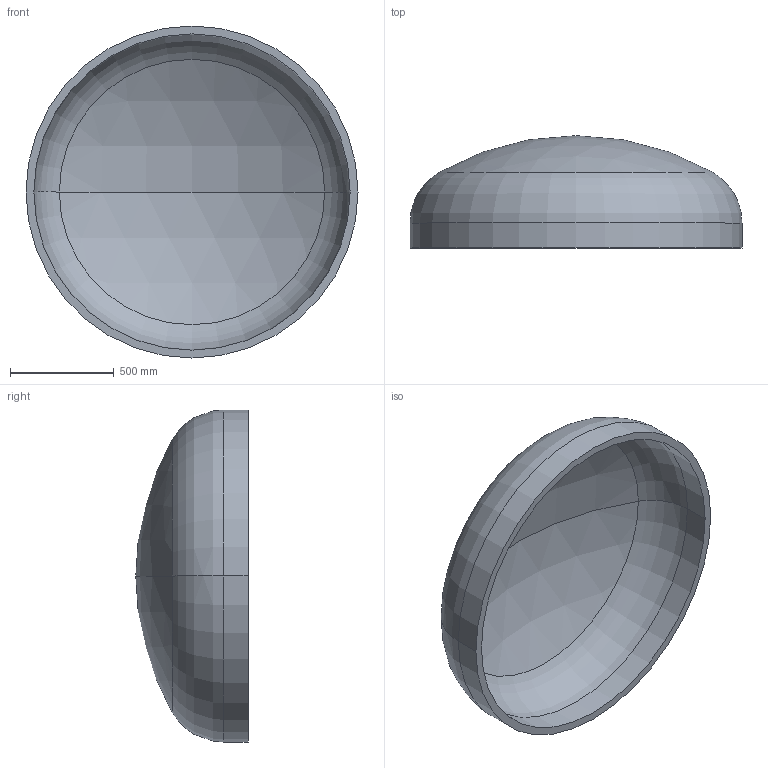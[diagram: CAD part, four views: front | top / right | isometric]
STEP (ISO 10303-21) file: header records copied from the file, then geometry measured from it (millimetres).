
FILE_DESCRIPTION (( 'STEP AP203' ), '1' );
FILE_NAME ('DIN 28013 Korbbogenform_-_Boden DIN 28013 - 1600 x 120 - I - s=38.step', '2016-07-01T11:14:54', ( '' ), ( '' ), 'SwSTEP 2.0', 'SolidWorks 2013', '' );
FILE_SCHEMA (( 'CONFIG_CONTROL_DESIGN' ));
Length unit declared in the file: millimetre
Products named in the file (1): DIN 28013 Korbbogenform_-_Boden DIN 28013 - 1600 x 120 - I - s=38
Bounding box: 1600 x 541.38 x 1600 mm (x, y, z)
Volume: 124829673 mm3; surface area: 6759477.5 mm2
Topology: 1 solids, 1 shells, 13 faces, 24 edges, 14 vertices
Faces by surface type: torus 4, cylinder 4, sphere 4, plane 1
Entity records: 407 total; most frequent: DIRECTION 72, CARTESIAN_POINT 52, ORIENTED_EDGE 48, AXIS2_PLACEMENT_3D 34, EDGE_CURVE 24, CIRCLE 20, VERTEX_POINT 14, EDGE_LOOP 14
